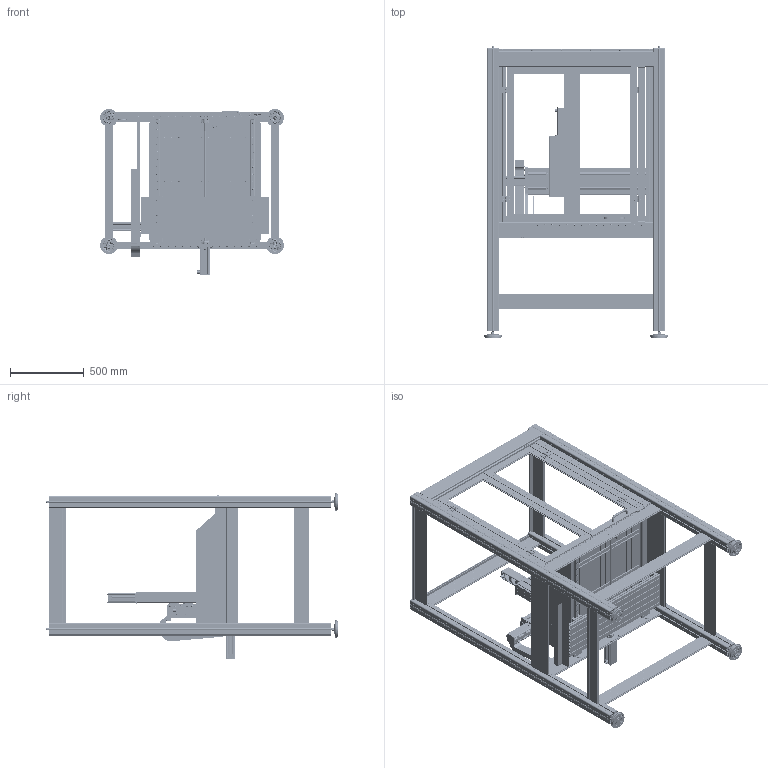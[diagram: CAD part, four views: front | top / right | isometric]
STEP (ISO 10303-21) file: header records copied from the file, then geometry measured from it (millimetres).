
FILE_DESCRIPTION (( 'STEP AP203' ), '1' );
FILE_NAME ('STEP_-_X-Y-Z Flachbetteinheit FB2 - ArtNr 246203M - ArtNr 248500 0027 - ArtNr 248200 0000 - ArtNr 230514 0400M.step', '2015-04-22T15:16:44', ( '' ), ( '' ), 'SwSTEP 2.0', 'SolidWorks 2014', '' );
FILE_SCHEMA (( 'CONFIG_CONTROL_DESIGN' ));
Length unit declared in the file: millimetre
Products named in the file (8): TE0179 - F黨rungsschlitten_F乭rungsschlitten f乺 KG-Mutter Typ25; Z-Achse FB2 Hub 160mm; Untergestell 750x850_f〉 Umhausung; Untergestell Baugruppe_750x850 - f〉 Umhausung; Umhausung 750x850; Umhausung Baugruppe_750x850; STEP_-_X-Y-Z Flachbetteinheit FB2 - ArtNr 246203M - ArtNr 248500 0027 - ArtNr 248200 0000 - ArtNr 230514 0400M; X-Y-Achse f黵 Verfahrweg 530
Assembly tree (8 placements, depth 3):
  STEP_-_X-Y-Z Flachbetteinheit FB2 - ArtNr 246203M - ArtNr 248500 0027 - ArtNr 248200 0000 - ArtNr 230514 0400M
    X-Y-Achse f黵 Verfahrweg 530
    TE0179 - F黨rungsschlitten_F乭rungsschlitten f乺 KG-Mutter Typ25  x2
    Z-Achse FB2 Hub 160mm
    Untergestell Baugruppe_750x850 - f〉 Umhausung
      Untergestell 750x850_f〉 Umhausung
    Umhausung Baugruppe_750x850
      Umhausung 750x850
Bounding box: 1249.73 x 1989.05 x 1128.16 mm (x, y, z)
Volume: 54631145.3 mm3; surface area: 35424822.5 mm2
Topology: 593 solids, 593 shells, 21605 faces, 56922 edges, 36790 vertices
Faces by surface type: plane 13015, cylinder 6530, cone 1164, torus 694, sphere 197, bspline 5
Full cylindrical faces by diameter (mm): 1.5 x12, 2 x3, 2.33 x2, 2.4 x2, 2.5 x44, 3 x17, 3.2 x13, 3.3 x8, 3.7 x1, 4 x63, 4.2 x24, 4.3 x11, 4.5 x24, 4.6 x1, 4.8 x8, 4.819 x7, 5 x94, 5.2 x47, 5.5 x25, 6 x271, 6.1 x8, 6.35 x2, 6.4 x12, 6.5 x64, 6.6 x83, 7 x227, 7.2 x3, 7.5 x38, 8 x40, 8.4 x4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
Entity records: 678344 total; most frequent: CARTESIAN_POINT 168742, DIRECTION 103078, ORIENTED_EDGE 102684, EDGE_CURVE 51342, AXIS2_PLACEMENT_3D 35801, VERTEX_POINT 35075, LINE 31476, VECTOR 31476
